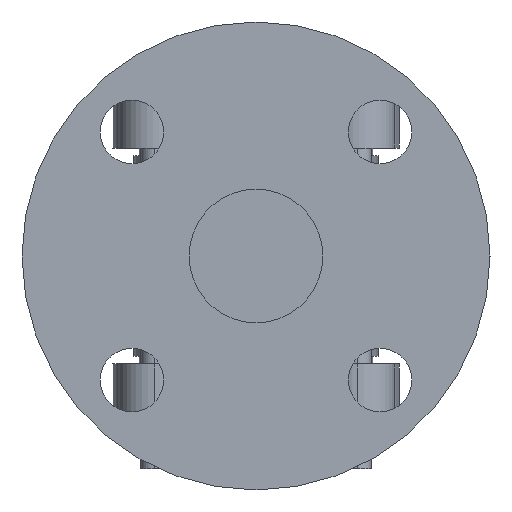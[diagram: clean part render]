
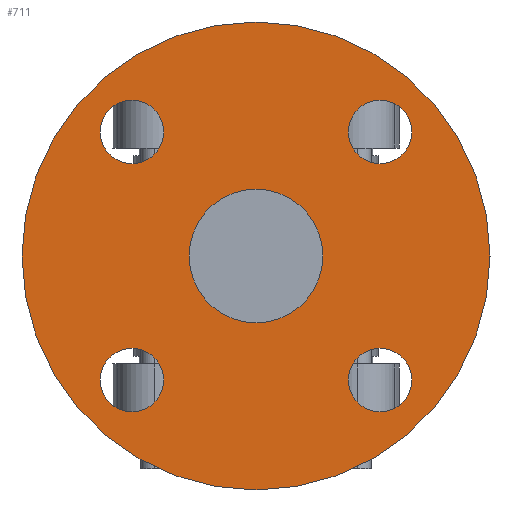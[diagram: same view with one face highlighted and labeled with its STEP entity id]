
A CAD part, left-side view. The second image highlights one B-rep face of the part: STEP entity #711.
In plain terms, the highlighted planar face has unit normal (-1, 0, 0).
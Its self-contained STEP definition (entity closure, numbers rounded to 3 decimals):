
#8 = AXIS2_PLACEMENT_3D ( 'NONE', #2863, #5676, #576 ) ;
#29 = DIRECTION ( 'NONE',  ( 0., 1., 0. ) ) ;
#73 = EDGE_LOOP ( 'NONE', ( #3054, #4350 ) ) ;
#132 = DIRECTION ( 'NONE',  ( 0., -1., 0. ) ) ;
#204 = CIRCLE ( 'NONE', #8, 9.5 ) ;
#285 = EDGE_CURVE ( 'NONE', #5611, #5153, #589, .T. ) ;
#292 = DIRECTION ( 'NONE',  ( -1., 0., 0. ) ) ;
#301 = DIRECTION ( 'NONE',  ( -1., 0., 0. ) ) ;
#337 = CARTESIAN_POINT ( 'NONE',  ( -85., 70., 0. ) ) ;
#476 = VERTEX_POINT ( 'NONE', #337 ) ;
#482 = CARTESIAN_POINT ( 'NONE',  ( -85., 46.623, 37.123 ) ) ;
#502 = DIRECTION ( 'NONE',  ( 0., 0., -1. ) ) ;
#548 = ORIENTED_EDGE ( 'NONE', *, *, #5109, .T. ) ;
#549 = EDGE_CURVE ( 'NONE', #3294, #3866, #4602, .T. ) ;
#576 = DIRECTION ( 'NONE',  ( 0., -1., 0. ) ) ;
#589 = CIRCLE ( 'NONE', #1955, 9.5 ) ;
#611 = EDGE_CURVE ( 'NONE', #3866, #3294, #3041, .T. ) ;
#669 = ORIENTED_EDGE ( 'NONE', *, *, #285, .F. ) ;
#708 = CARTESIAN_POINT ( 'NONE',  ( -85., 0., 0. ) ) ;
#711 = ADVANCED_FACE ( 'NONE', ( #2338, #4601, #5994, #2824, #4571, #1815 ), #3682, .F. ) ;
#787 = VERTEX_POINT ( 'NONE', #3442 ) ;
#856 = DIRECTION ( 'NONE',  ( 0., -1., 0. ) ) ;
#905 = CARTESIAN_POINT ( 'NONE',  ( -85., 46.623, -37.123 ) ) ;
#1079 = DIRECTION ( 'NONE',  ( -1., 0., 0. ) ) ;
#1154 = EDGE_CURVE ( 'NONE', #5436, #5075, #2646, .T. ) ;
#1186 = AXIS2_PLACEMENT_3D ( 'NONE', #1843, #2796, #4145 ) ;
#1210 = CARTESIAN_POINT ( 'NONE',  ( -85., 37.123, 37.123 ) ) ;
#1361 = DIRECTION ( 'NONE',  ( 1., 0., 0. ) ) ;
#1386 = AXIS2_PLACEMENT_3D ( 'NONE', #5536, #1361, #4113 ) ;
#1602 = CIRCLE ( 'NONE', #1791, 70. ) ;
#1610 = DIRECTION ( 'NONE',  ( 0., 0., 1. ) ) ;
#1693 = AXIS2_PLACEMENT_3D ( 'NONE', #2341, #4202, #29 ) ;
#1758 = DIRECTION ( 'NONE',  ( 0., -1., 0. ) ) ;
#1791 = AXIS2_PLACEMENT_3D ( 'NONE', #708, #5369, #132 ) ;
#1815 = FACE_OUTER_BOUND ( 'NONE', #5416, .T. ) ;
#1843 = CARTESIAN_POINT ( 'NONE',  ( -85., 0., 0. ) ) ;
#1955 = AXIS2_PLACEMENT_3D ( 'NONE', #2324, #3279, #3337 ) ;
#2028 = CIRCLE ( 'NONE', #3196, 9.5 ) ;
#2081 = CIRCLE ( 'NONE', #1693, 9.5 ) ;
#2210 = VERTEX_POINT ( 'NONE', #905 ) ;
#2230 = DIRECTION ( 'NONE',  ( -1., 0., 0. ) ) ;
#2324 = CARTESIAN_POINT ( 'NONE',  ( -85., -37.123, -37.123 ) ) ;
#2338 = FACE_BOUND ( 'NONE', #3757, .T. ) ;
#2341 = CARTESIAN_POINT ( 'NONE',  ( -85., -37.123, 37.123 ) ) ;
#2380 = EDGE_LOOP ( 'NONE', ( #3518, #5672 ) ) ;
#2646 = CIRCLE ( 'NONE', #2938, 9.5 ) ;
#2714 = CARTESIAN_POINT ( 'NONE',  ( -85., 0., 0. ) ) ;
#2794 = VERTEX_POINT ( 'NONE', #3485 ) ;
#2796 = DIRECTION ( 'NONE',  ( -1., 0., 0. ) ) ;
#2815 = EDGE_CURVE ( 'NONE', #3027, #2794, #2028, .T. ) ;
#2822 = ORIENTED_EDGE ( 'NONE', *, *, #3193, .F. ) ;
#2824 = FACE_BOUND ( 'NONE', #73, .T. ) ;
#2863 = CARTESIAN_POINT ( 'NONE',  ( -85., 37.123, -37.123 ) ) ;
#2909 = CARTESIAN_POINT ( 'NONE',  ( -85., 37.123, 37.123 ) ) ;
#2938 = AXIS2_PLACEMENT_3D ( 'NONE', #2909, #1079, #502 ) ;
#2954 = EDGE_LOOP ( 'NONE', ( #2822, #669 ) ) ;
#3027 = VERTEX_POINT ( 'NONE', #5265 ) ;
#3041 = CIRCLE ( 'NONE', #1186, 20. ) ;
#3054 = ORIENTED_EDGE ( 'NONE', *, *, #5291, .F. ) ;
#3193 = EDGE_CURVE ( 'NONE', #5153, #5611, #4856, .T. ) ;
#3196 = AXIS2_PLACEMENT_3D ( 'NONE', #4796, #5828, #5802 ) ;
#3279 = DIRECTION ( 'NONE',  ( -1., 0., 0. ) ) ;
#3294 = VERTEX_POINT ( 'NONE', #3678 ) ;
#3332 = CARTESIAN_POINT ( 'NONE',  ( -85., 20., 0. ) ) ;
#3337 = DIRECTION ( 'NONE',  ( 0., 0., 1. ) ) ;
#3361 = CIRCLE ( 'NONE', #3939, 70. ) ;
#3442 = CARTESIAN_POINT ( 'NONE',  ( -85., 27.623, -37.123 ) ) ;
#3485 = CARTESIAN_POINT ( 'NONE',  ( -85., -46.623, 37.123 ) ) ;
#3518 = ORIENTED_EDGE ( 'NONE', *, *, #549, .F. ) ;
#3544 = AXIS2_PLACEMENT_3D ( 'NONE', #5051, #4173, #1758 ) ;
#3605 = CARTESIAN_POINT ( 'NONE',  ( -85., -27.623, -37.123 ) ) ;
#3678 = CARTESIAN_POINT ( 'NONE',  ( -85., -20., 0. ) ) ;
#3682 = PLANE ( 'NONE',  #1386 ) ;
#3757 = EDGE_LOOP ( 'NONE', ( #4800, #5574 ) ) ;
#3866 = VERTEX_POINT ( 'NONE', #3332 ) ;
#3933 = EDGE_CURVE ( 'NONE', #2210, #787, #204, .T. ) ;
#3939 = AXIS2_PLACEMENT_3D ( 'NONE', #3997, #2230, #856 ) ;
#3997 = CARTESIAN_POINT ( 'NONE',  ( -85., 0., 0. ) ) ;
#4028 = DIRECTION ( 'NONE',  ( 0., -1., 0. ) ) ;
#4034 = ORIENTED_EDGE ( 'NONE', *, *, #5534, .F. ) ;
#4084 = EDGE_CURVE ( 'NONE', #5075, #5436, #4964, .T. ) ;
#4113 = DIRECTION ( 'NONE',  ( 0., 1., 0. ) ) ;
#4124 = CARTESIAN_POINT ( 'NONE',  ( -85., 27.623, 37.123 ) ) ;
#4145 = DIRECTION ( 'NONE',  ( 0., -1., 0. ) ) ;
#4173 = DIRECTION ( 'NONE',  ( -1., 0., 0. ) ) ;
#4202 = DIRECTION ( 'NONE',  ( -1., 0., 0. ) ) ;
#4350 = ORIENTED_EDGE ( 'NONE', *, *, #3933, .F. ) ;
#4417 = CARTESIAN_POINT ( 'NONE',  ( -85., -37.123, -37.123 ) ) ;
#4571 = FACE_BOUND ( 'NONE', #2380, .T. ) ;
#4601 = FACE_BOUND ( 'NONE', #5869, .T. ) ;
#4602 = CIRCLE ( 'NONE', #5371, 20. ) ;
#4744 = ORIENTED_EDGE ( 'NONE', *, *, #2815, .F. ) ;
#4796 = CARTESIAN_POINT ( 'NONE',  ( -85., -37.123, 37.123 ) ) ;
#4800 = ORIENTED_EDGE ( 'NONE', *, *, #4084, .F. ) ;
#4856 = CIRCLE ( 'NONE', #5636, 9.5 ) ;
#4878 = ORIENTED_EDGE ( 'NONE', *, *, #5007, .T. ) ;
#4964 = CIRCLE ( 'NONE', #5752, 9.5 ) ;
#5007 = EDGE_CURVE ( 'NONE', #476, #5929, #1602, .T. ) ;
#5051 = CARTESIAN_POINT ( 'NONE',  ( -85., 37.123, -37.123 ) ) ;
#5075 = VERTEX_POINT ( 'NONE', #4124 ) ;
#5109 = EDGE_CURVE ( 'NONE', #5929, #476, #3361, .T. ) ;
#5153 = VERTEX_POINT ( 'NONE', #5424 ) ;
#5251 = CARTESIAN_POINT ( 'NONE',  ( -85., -70., 0. ) ) ;
#5265 = CARTESIAN_POINT ( 'NONE',  ( -85., -27.623, 37.123 ) ) ;
#5291 = EDGE_CURVE ( 'NONE', #787, #2210, #5785, .T. ) ;
#5369 = DIRECTION ( 'NONE',  ( -1., 0., 0. ) ) ;
#5371 = AXIS2_PLACEMENT_3D ( 'NONE', #2714, #301, #4028 ) ;
#5416 = EDGE_LOOP ( 'NONE', ( #548, #4878 ) ) ;
#5424 = CARTESIAN_POINT ( 'NONE',  ( -85., -46.623, -37.123 ) ) ;
#5436 = VERTEX_POINT ( 'NONE', #482 ) ;
#5507 = DIRECTION ( 'NONE',  ( -1., 0., 0. ) ) ;
#5534 = EDGE_CURVE ( 'NONE', #2794, #3027, #2081, .T. ) ;
#5536 = CARTESIAN_POINT ( 'NONE',  ( -85., 0., 0. ) ) ;
#5574 = ORIENTED_EDGE ( 'NONE', *, *, #1154, .F. ) ;
#5611 = VERTEX_POINT ( 'NONE', #3605 ) ;
#5636 = AXIS2_PLACEMENT_3D ( 'NONE', #4417, #292, #1610 ) ;
#5672 = ORIENTED_EDGE ( 'NONE', *, *, #611, .F. ) ;
#5676 = DIRECTION ( 'NONE',  ( -1., 0., 0. ) ) ;
#5689 = DIRECTION ( 'NONE',  ( 0., 0., -1. ) ) ;
#5752 = AXIS2_PLACEMENT_3D ( 'NONE', #1210, #5507, #5689 ) ;
#5785 = CIRCLE ( 'NONE', #3544, 9.5 ) ;
#5802 = DIRECTION ( 'NONE',  ( 0., 1., 0. ) ) ;
#5828 = DIRECTION ( 'NONE',  ( -1., 0., 0. ) ) ;
#5869 = EDGE_LOOP ( 'NONE', ( #4034, #4744 ) ) ;
#5929 = VERTEX_POINT ( 'NONE', #5251 ) ;
#5994 = FACE_BOUND ( 'NONE', #2954, .T. ) ;
